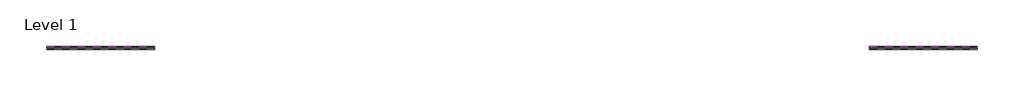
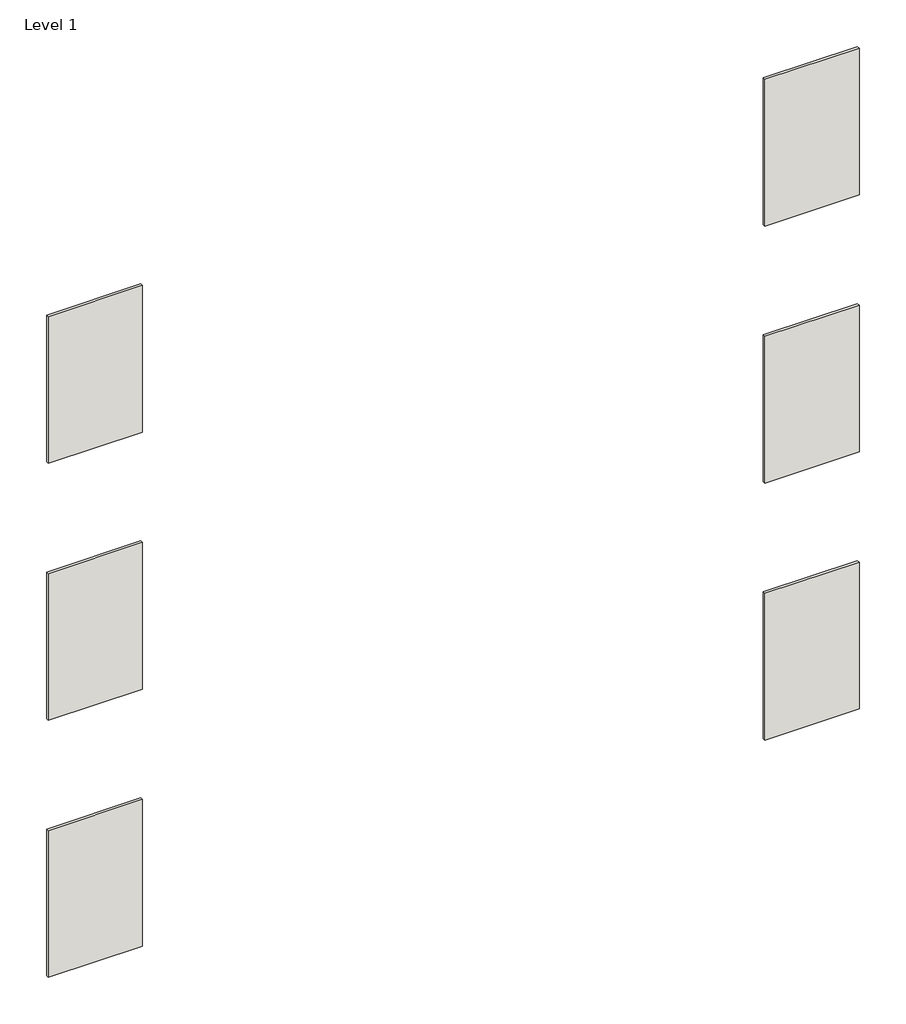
# One storey: 6 walls.
"""IFC4 building model written with IfcOpenShell, lengths in millimetres."""

import ifcopenshell
import ifcopenshell.guid

model = None  # the IFC model being written
_history = None  # IfcOwnerHistory: only IFC2X3 demands one
_inside = {}  # id of a spatial element -> (the spatial element, [elements in it])
_under = {}  # id of a project, library or spatial element -> (it, [spatial elements below it])
_declared = {}  # id of a project -> (the project, [libraries it declares])
_typed = {}  # id of a type object -> (the type object, [elements of that type])
_made_of = {}  # id of a material, layer set ... -> (it, [elements and type objects made of it])


def new_model(schema):
    """Start an empty IFC model of exactly this schema.

    Asked for "IFC4X3", IfcOpenShell would pick the latest addendum, in which some entities
    have other attributes; the version numbers below select the first issue.
    IFC2X3 requires an IfcOwnerHistory on every rooted entity: one is made here for all.
    """
    global model, _history
    if schema == "IFC4X3":
        model = ifcopenshell.file(schema_version=(4, 3, 0, 0))
    else:
        model = ifcopenshell.file(schema=schema)
    _inside.clear()
    _under.clear()
    _declared.clear()
    _typed.clear()
    _made_of.clear()
    _history = None
    if model.schema == "IFC2X3":
        org = make("IfcOrganization", Name="unknown")
        user = make(
            "IfcPersonAndOrganization",
            ThePerson=make("IfcPerson", FamilyName="unknown"),
            TheOrganization=org,
        )
        app = make(
            "IfcApplication",
            ApplicationDeveloper=org,
            Version="unknown",
            ApplicationFullName="unknown",
            ApplicationIdentifier="unknown",
        )
        _history = make(
            "IfcOwnerHistory",
            OwningUser=user,
            OwningApplication=app,
            ChangeAction="ADDED",
            CreationDate=0,
        )
    return model


def make(cls, **values):
    """One entity of the class cls with the attributes given. An attribute that is None is left unset."""
    return model.create_entity(
        cls, **{name: value for name, value in values.items() if value is not None}
    )


def rooted(cls, **values):
    """An entity with a GlobalId (a new one), such as an element, a storey or a relation."""
    return make(cls, GlobalId=ifcopenshell.guid.new(), OwnerHistory=_history, **values)


def si_unit(unit_type, name, prefix=None):
    """IfcSIUnit, for example si_unit("LENGTHUNIT", "METRE", prefix="MILLI")."""
    return make("IfcSIUnit", UnitType=unit_type, Prefix=prefix, Name=name)


def assignment(units):
    """IfcUnitAssignment: the units of a project."""
    return None if units is None else make("IfcUnitAssignment", Units=units)


def point(xyz):
    """IfcCartesianPoint."""
    return None if xyz is None else make("IfcCartesianPoint", Coordinates=xyz)


def direction(xyz):
    """IfcDirection."""
    return None if xyz is None else make("IfcDirection", DirectionRatios=xyz)


def frame(location, z_axis=None, x_axis=None):
    """IfcAxis2Placement3D, a coordinate frame: its origin and axes. An axis left out is left unset."""
    return make(
        "IfcAxis2Placement3D",
        Location=point(location),
        Axis=direction(z_axis),
        RefDirection=direction(x_axis),
    )


def origin():
    """The frame at (0, 0, 0) with its axes left unset."""
    return frame((0.0, 0.0, 0.0))


def place(relative_to, where):
    """IfcLocalPlacement: puts the frame where relative to a parent placement (None: the world)."""
    return make(
        "IfcLocalPlacement", PlacementRelTo=relative_to, RelativePlacement=where
    )


def context(
    kind, dimensions, precision=None, world=None, true_north=None, identifier=None
):
    """IfcGeometricRepresentationContext, for example the 3D "Model" context."""
    return make(
        "IfcGeometricRepresentationContext",
        ContextIdentifier=identifier,
        ContextType=kind,
        CoordinateSpaceDimension=dimensions,
        Precision=precision,
        WorldCoordinateSystem=world,
        TrueNorth=true_north,
    )


def project(units=None, contexts=None):
    """IfcProject with its units and contexts."""
    return rooted(
        "IfcProject",
        Name="project",
        RepresentationContexts=contexts,
        UnitsInContext=assignment(units),
    )


def spatial(cls, under=None, at=None, **own):
    """A site, building, storey or space (cls), placed at a placement, below another one or the project."""
    s = rooted(cls, ObjectPlacement=at, **own)
    if under is not None:
        _under.setdefault(under.id(), (under, []))[1].append(s)
    return s


def polyline(points):
    """IfcPolyline through the points."""
    return make("IfcPolyline", Points=[point(p) for p in points])


def outline(outer, holes=None, kind="AREA"):
    """IfcArbitraryClosedProfileDef: a profile drawn as a closed curve; with holes, ...WithVoids."""
    if holes is None:
        return make("IfcArbitraryClosedProfileDef", ProfileType=kind, OuterCurve=outer)
    return make(
        "IfcArbitraryProfileDefWithVoids",
        ProfileType=kind,
        OuterCurve=outer,
        InnerCurves=holes,
    )


def extrude(swept, where, along, depth):
    """IfcExtrudedAreaSolid: the profile swept, set in the frame where, extruded along a direction by depth."""
    return make(
        "IfcExtrudedAreaSolid",
        SweptArea=swept,
        Position=where,
        ExtrudedDirection=direction(along),
        Depth=depth,
    )


def shape(context_of_items, identifier, shape_type, items):
    """IfcShapeRepresentation: the items that make up one representation, for example the "Body"."""
    return make(
        "IfcShapeRepresentation",
        ContextOfItems=context_of_items,
        RepresentationIdentifier=identifier,
        RepresentationType=shape_type,
        Items=items,
    )


def made_of(thing, what):
    """Note that an element or type object is made of a material, layer set ...; save() writes the relation."""
    if what is not None:
        _made_of.setdefault(what.id(), (what, []))[1].append(thing)
    return thing


def element(
    cls,
    number,
    at=None,
    inside=None,
    cuts=None,
    type_object=None,
    material=None,
    context=None,
    identifier="Body",
    shape_type=None,
    held_by="IfcProductDefinitionShape",
    body=None,
    shapes=None,
    **own,
):
    """One element of the class cls, such as IfcWall. Its Tag is "e" and its number.

    at: its placement. inside: the storey or other place that contains it. cuts: it is an
    opening in that element (IfcRelVoidsElement). A single representation is given by context,
    identifier, shape_type and body (its items); several are given by shapes. held_by: the class
    of the entity that holds the representations. save() writes the other relations.
    """
    e = rooted(cls, Tag="e%d" % number, ObjectPlacement=at, **own)
    if body is not None:
        shapes = [shape(context, identifier, shape_type, body)]
    if shapes is not None:
        e.Representation = make(held_by, Representations=shapes)
    if inside is not None:
        _inside.setdefault(inside.id(), (inside, []))[1].append(e)
    if cuts is not None:
        rooted(
            "IfcRelVoidsElement", RelatingBuildingElement=cuts, RelatedOpeningElement=e
        )
    if type_object is not None:
        _typed.setdefault(type_object.id(), (type_object, []))[1].append(e)
    return made_of(e, material)


def aggregate(whole, parts):
    """IfcRelAggregates: a whole, such as a stair, and the parts it consists of."""
    return rooted("IfcRelAggregates", RelatingObject=whole, RelatedObjects=parts)


def save(model, path):
    """Write the relations noted so far, then the file.

    IfcRelAggregates (storeys below a building ...), IfcRelContainedInSpatialStructure (elements
    in a storey), IfcRelDefinesByType, IfcRelAssociatesMaterial and IfcRelDeclares: one each for
    every whole, place, type object, material and project.
    """
    for whole, parts in _under.values():
        aggregate(whole, parts)
    for where, things in _inside.values():
        rooted(
            "IfcRelContainedInSpatialStructure",
            RelatedElements=things,
            RelatingStructure=where,
        )
    for kind, things in _typed.values():
        rooted("IfcRelDefinesByType", RelatedObjects=things, RelatingType=kind)
    for what, things in _made_of.values():
        rooted("IfcRelAssociatesMaterial", RelatedObjects=things, RelatingMaterial=what)
    for by, libraries in _declared.values():
        rooted("IfcRelDeclares", RelatingContext=by, RelatedDefinitions=libraries)
    model.write(path)


model = new_model("IFC4")

# Units and contexts
model_context = context("Model", 3, world=origin())
ifc_project = project(units=[si_unit("LENGTHUNIT", "METRE", prefix="MILLI")], contexts=[model_context])

# Site, building, storey
site = spatial("IfcSite", under=ifc_project)
building = spatial("IfcBuilding", under=site)
storey = spatial("IfcBuildingStorey", under=building, Name="Level 1", Elevation=0.0)

# Walls
placement = place(None, origin())
element("IfcWall", 1, ObjectType="Brannpanel Natur - D-fals Ny type - Thermowood - 068mm", at=placement, inside=storey, context=model_context, shape_type="SweptSolid", body=[
    extrude(outline(polyline([(3147.3226342, -1247.7130659), (2419.3226342, -1247.7130659), (2419.3226342, -1226.7130659), (3147.3226342, -1226.7130659), (3147.3226342, -1247.7130659)])), frame((0.0, 0.0, 2403.419701), z_axis=(0.0, 0.0, 1.0), x_axis=(1.0, 0.0, 0.0)), (0.0, 0.0, 1.0), 1200.0),
])
element("IfcWall", 2, ObjectType="Brannpanel Natur - D-fals Ny type - Thermowood - 095mm", at=placement, inside=storey, context=model_context, shape_type="SweptSolid", body=[
    extrude(outline(polyline([(-2392.6773658, -1247.7130659), (-3120.6773658, -1247.7130659), (-3120.6773658, -1226.7130659), (-2392.6773658, -1226.7130659), (-2392.6773658, -1247.7130659)])), frame((0.0, 0.0, 2403.419701), z_axis=(0.0, 0.0, 1.0), x_axis=(1.0, 0.0, 0.0)), (0.0, 0.0, 1.0), 1200.0),
])
element("IfcWall", 3, ObjectType="Brannpanel Natur - D-fals Ny type - Thermowood - 120mm", at=placement, inside=storey, context=model_context, shape_type="SweptSolid", body=[
    extrude(outline(polyline([(3147.3226342, -1247.7130659), (2419.3226342, -1247.7130659), (2419.3226342, -1226.7130659), (3147.3226342, -1226.7130659), (3147.3226342, -1247.7130659)])), frame((0.0, 0.0, 303.419701), z_axis=(0.0, 0.0, 1.0), x_axis=(1.0, 0.0, 0.0)), (0.0, 0.0, 1.0), 1200.0),
])
element("IfcWall", 4, ObjectType="Brannpanel Natur - D-fals Ny type - Thermowood - 145mm", at=placement, inside=storey, context=model_context, shape_type="SweptSolid", body=[
    extrude(outline(polyline([(-2392.6773658, -1247.7130659), (-3120.6773658, -1247.7130659), (-3120.6773658, -1226.7130659), (-2392.6773658, -1226.7130659), (-2392.6773658, -1247.7130659)])), frame((0.0, 0.0, 303.419701), z_axis=(0.0, 0.0, 1.0), x_axis=(1.0, 0.0, 0.0)), (0.0, 0.0, 1.0), 1200.0),
])
element("IfcWall", 5, ObjectType="Brannpanel Natur - D-fals Ny type - Thermowood - 168mm", at=placement, inside=storey, context=model_context, shape_type="SweptSolid", body=[
    extrude(outline(polyline([(3147.3226342, -1247.7130659), (2419.3226342, -1247.7130659), (2419.3226342, -1226.7130659), (3147.3226342, -1226.7130659), (3147.3226342, -1247.7130659)])), frame((0.0, 0.0, -1796.580299), z_axis=(0.0, 0.0, 1.0), x_axis=(1.0, 0.0, 0.0)), (0.0, 0.0, 1.0), 1200.0),
])
element("IfcWall", 6, ObjectType="Brannpanel Natur - D-fals Ny type - Thermowood - 193mm", at=placement, inside=storey, context=model_context, shape_type="SweptSolid", body=[
    extrude(outline(polyline([(-2392.6773658, -1247.7130659), (-3120.6773658, -1247.7130659), (-3120.6773658, -1226.7130659), (-2392.6773658, -1226.7130659), (-2392.6773658, -1247.7130659)])), frame((0.0, 0.0, -1796.580299), z_axis=(0.0, 0.0, 1.0), x_axis=(1.0, 0.0, 0.0)), (0.0, 0.0, 1.0), 1200.0),
])

save(model, "model.ifc")
